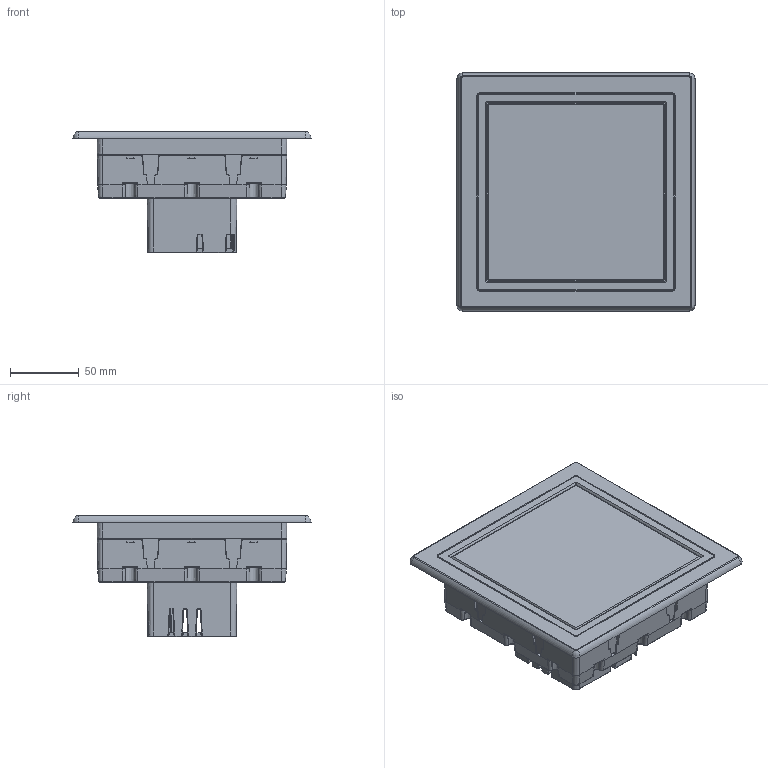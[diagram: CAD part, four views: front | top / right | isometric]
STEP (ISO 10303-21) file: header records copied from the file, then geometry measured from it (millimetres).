
FILE_DESCRIPTION(/* description */ (''),/* implementation_level */ '2;1');
FILE_NAME(/* name */ '\\deif.com\files\dok_dat\00arbdir\01_Customer files created by request\XL\XL144\XL144_asm_front+rear mount_20220913.stp',/* time_stamp */ '2022-09-13T14:38:08+02:00',/* author */ ('JDI'),/* organization */ (''),/* preprocessor_version */ 'ST-DEVELOPER v18.1',/* originating_system */ 'Autodesk Inventor 2022',/* authorisation */ '');
FILE_SCHEMA (('AUTOMOTIVE_DESIGN { 1 0 10303 214 3 1 1 }'));
Products named in the file (1): XL144_asm_front+rear mount_20091217_Simplify_1
Bounding box: 173 x 173 x 88.25 mm (x, y, z)
Volume: 252847.6 mm3; surface area: 193795.6 mm2
Topology: 1 solids, 2 shells, 3661 faces, 9107 edges, 5360 vertices
Faces by surface type: cylinder 1368, bspline 891, plane 792, torus 248, cone 226, sphere 136
Entity records: 185098 total; most frequent: CARTESIAN_POINT 98598, ORIENTED_EDGE 18134, DIRECTION 16887, EDGE_CURVE 9075, AXIS2_PLACEMENT_3D 6587, VERTEX_POINT 5360, EDGE_LOOP 3759, LINE 3713
